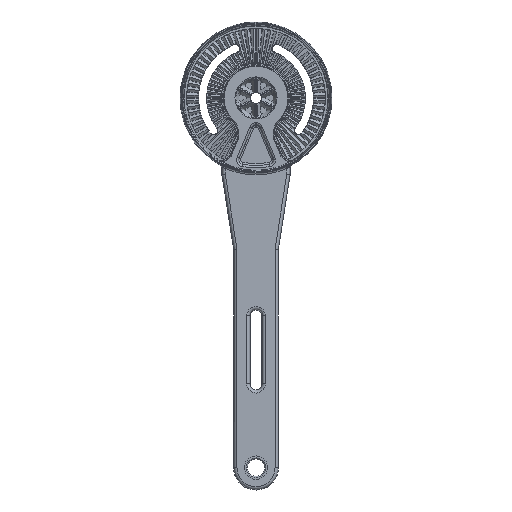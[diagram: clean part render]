
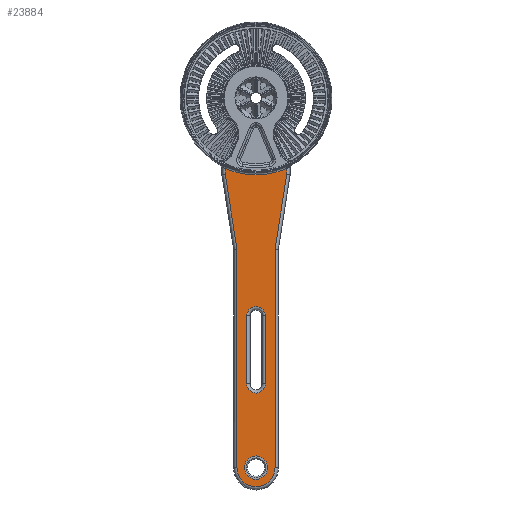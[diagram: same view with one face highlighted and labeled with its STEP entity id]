
A CAD part, top view. The second image highlights one B-rep face of the part: STEP entity #23884.
In plain terms, the highlighted planar face has unit normal (0, 0, 1).
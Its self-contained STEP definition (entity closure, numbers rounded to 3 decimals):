
#656 = VERTEX_POINT ( 'NONE', #7514 ) ;
#1043 = CARTESIAN_POINT ( 'NONE',  ( 9.423, -294., 16. ) ) ;
#1213 = VERTEX_POINT ( 'NONE', #8136 ) ;
#1321 = DIRECTION ( 'NONE',  ( 0., -1., 0. ) ) ;
#1452 = DIRECTION ( 'NONE',  ( -1., 0., 0. ) ) ;
#1480 = DIRECTION ( 'NONE',  ( 0., 0., -1. ) ) ;
#1540 = CARTESIAN_POINT ( 'NONE',  ( 0., 0., 16. ) ) ;
#1574 = CARTESIAN_POINT ( 'NONE',  ( -31.577, 500000., 16. ) ) ;
#1618 = VERTEX_POINT ( 'NONE', #10531 ) ;
#1676 = DIRECTION ( 'NONE',  ( -1., 0., 0. ) ) ;
#1681 = DIRECTION ( 'NONE',  ( 0., 0., -1. ) ) ;
#1763 = CARTESIAN_POINT ( 'NONE',  ( 0., -294., 16. ) ) ;
#1771 = CARTESIAN_POINT ( 'NONE',  ( 31.577, 500000., 16. ) ) ;
#2138 = DIRECTION ( 'NONE',  ( 0., 1., 0. ) ) ;
#2353 = CARTESIAN_POINT ( 'NONE',  ( 9.423, -224., 16. ) ) ;
#2357 = CARTESIAN_POINT ( 'NONE',  ( -9.423, -294., 16. ) ) ;
#3067 = VECTOR ( 'NONE', #19893, 1000. ) ;
#3095 = LINE ( 'NONE', #22497, #3067 ) ;
#3333 = VECTOR ( 'NONE', #25140, 1000. ) ;
#3478 = LINE ( 'NONE', #26350, #3721 ) ;
#3645 = LINE ( 'NONE', #26181, #3333 ) ;
#3721 = VECTOR ( 'NONE', #27639, 1000. ) ;
#3767 = VECTOR ( 'NONE', #12662, 1000. ) ;
#3794 = LINE ( 'NONE', #16490, #3767 ) ;
#3970 = CIRCLE ( 'NONE', #7070, 19.577 ) ;
#4026 = VECTOR ( 'NONE', #1321, 1000. ) ;
#4046 = LINE ( 'NONE', #1574, #4026 ) ;
#4301 = VECTOR ( 'NONE', #2138, 1000. ) ;
#4357 = LINE ( 'NONE', #1771, #4301 ) ;
#4442 = CIRCLE ( 'NONE', #12941, 9.423 ) ;
#4475 = CARTESIAN_POINT ( 'NONE',  ( -31.577, -78.735, 16. ) ) ;
#4652 = VECTOR ( 'NONE', #4739, 1000. ) ;
#4673 = CIRCLE ( 'NONE', #8152, 79.168 ) ;
#4739 = DIRECTION ( 'NONE',  ( 0., -1., 0. ) ) ;
#4832 = VERTEX_POINT ( 'NONE', #19675 ) ;
#4947 = CIRCLE ( 'NONE', #8760, 9.423 ) ;
#5000 = DIRECTION ( 'NONE',  ( 0., 0., -1. ) ) ;
#5008 = DIRECTION ( 'NONE',  ( -1., 0., 0. ) ) ;
#5015 = DIRECTION ( 'NONE',  ( 0., 0., -1. ) ) ;
#5031 = CARTESIAN_POINT ( 'NONE',  ( 0., -224., 16. ) ) ;
#5139 = LINE ( 'NONE', #5346, #5498 ) ;
#5204 = EDGE_CURVE ( 'NONE', #9185, #22754, #13198, .T. ) ;
#5327 = DIRECTION ( 'NONE',  ( 0., 1., 0. ) ) ;
#5346 = CARTESIAN_POINT ( 'NONE',  ( -9.423, -224., 16. ) ) ;
#5349 = LINE ( 'NONE', #22311, #4652 ) ;
#5498 = VECTOR ( 'NONE', #5327, 1000. ) ;
#5616 = DIRECTION ( 'NONE',  ( 1., 0., 0. ) ) ;
#5664 = DIRECTION ( 'NONE',  ( 0., 0., 1. ) ) ;
#5701 = CARTESIAN_POINT ( 'NONE',  ( 0., -380., 16. ) ) ;
#5799 = CIRCLE ( 'NONE', #9485, 12. ) ;
#5895 = DIRECTION ( 'NONE',  ( 1., 0., 0. ) ) ;
#5905 = DIRECTION ( 'NONE',  ( 0., 0., 1. ) ) ;
#5924 = CARTESIAN_POINT ( 'NONE',  ( 0., -380., 16. ) ) ;
#6581 = VERTEX_POINT ( 'NONE', #4475 ) ;
#7070 = AXIS2_PLACEMENT_3D ( 'NONE', #25908, #25882, #25815 ) ;
#7465 = AXIS2_PLACEMENT_3D ( 'NONE', #5701, #5664, #5616 ) ;
#7514 = CARTESIAN_POINT ( 'NONE',  ( 19.577, -380., 16. ) ) ;
#8136 = CARTESIAN_POINT ( 'NONE',  ( -9.423, -224., 16. ) ) ;
#8152 = AXIS2_PLACEMENT_3D ( 'NONE', #1540, #1480, #1452 ) ;
#8760 = AXIS2_PLACEMENT_3D ( 'NONE', #5031, #5015, #5008 ) ;
#9185 = VERTEX_POINT ( 'NONE', #13244 ) ;
#9485 = AXIS2_PLACEMENT_3D ( 'NONE', #5924, #5905, #5895 ) ;
#9913 = VERTEX_POINT ( 'NONE', #2357 ) ;
#10531 = CARTESIAN_POINT ( 'NONE',  ( 19.577, -155.735, 16. ) ) ;
#10876 = ORIENTED_EDGE ( 'NONE', *, *, #11051, .F. ) ;
#11051 = EDGE_CURVE ( 'NONE', #22754, #9185, #5799, .T. ) ;
#11130 = EDGE_CURVE ( 'NONE', #9913, #1213, #5139, .T. ) ;
#11168 = EDGE_CURVE ( 'NONE', #1213, #15814, #4947, .T. ) ;
#11212 = EDGE_CURVE ( 'NONE', #15814, #21350, #5349, .T. ) ;
#11256 = EDGE_CURVE ( 'NONE', #21350, #9913, #4442, .T. ) ;
#11261 = EDGE_CURVE ( 'NONE', #4832, #14639, #4357, .T. ) ;
#11264 = EDGE_CURVE ( 'NONE', #14639, #20977, #4673, .T. ) ;
#11302 = EDGE_CURVE ( 'NONE', #20977, #6581, #4046, .T. ) ;
#11396 = EDGE_CURVE ( 'NONE', #6581, #19930, #3794, .T. ) ;
#11468 = EDGE_CURVE ( 'NONE', #19930, #17425, #3478, .T. ) ;
#11471 = EDGE_CURVE ( 'NONE', #17425, #656, #3970, .T. ) ;
#11513 = EDGE_CURVE ( 'NONE', #656, #1618, #3645, .T. ) ;
#11602 = EDGE_CURVE ( 'NONE', #1618, #4832, #3095, .T. ) ;
#11916 = ORIENTED_EDGE ( 'NONE', *, *, #5204, .F. ) ;
#12269 = ORIENTED_EDGE ( 'NONE', *, *, #11130, .T. ) ;
#12662 = DIRECTION ( 'NONE',  ( 0.154, -0.988, 0. ) ) ;
#12941 = AXIS2_PLACEMENT_3D ( 'NONE', #1763, #1681, #1676 ) ;
#13108 = ORIENTED_EDGE ( 'NONE', *, *, #11168, .T. ) ;
#13182 = ORIENTED_EDGE ( 'NONE', *, *, #11212, .T. ) ;
#13198 = CIRCLE ( 'NONE', #7465, 12. ) ;
#13244 = CARTESIAN_POINT ( 'NONE',  ( -12., -380., 16. ) ) ;
#13858 = ORIENTED_EDGE ( 'NONE', *, *, #11256, .T. ) ;
#14167 = ORIENTED_EDGE ( 'NONE', *, *, #11261, .T. ) ;
#14187 = ORIENTED_EDGE ( 'NONE', *, *, #11264, .T. ) ;
#14482 = CARTESIAN_POINT ( 'NONE',  ( 12., -380., 16. ) ) ;
#14498 = ORIENTED_EDGE ( 'NONE', *, *, #11302, .T. ) ;
#14503 = ORIENTED_EDGE ( 'NONE', *, *, #11396, .T. ) ;
#14639 = VERTEX_POINT ( 'NONE', #17967 ) ;
#15359 = ORIENTED_EDGE ( 'NONE', *, *, #11468, .T. ) ;
#15768 = ORIENTED_EDGE ( 'NONE', *, *, #11471, .T. ) ;
#15814 = VERTEX_POINT ( 'NONE', #2353 ) ;
#16085 = ORIENTED_EDGE ( 'NONE', *, *, #11513, .T. ) ;
#16490 = CARTESIAN_POINT ( 'NONE',  ( -76118.065, 488142.899, 16. ) ) ;
#16780 = ORIENTED_EDGE ( 'NONE', *, *, #11602, .T. ) ;
#16812 = CARTESIAN_POINT ( 'NONE',  ( -19.577, -380., 16. ) ) ;
#17425 = VERTEX_POINT ( 'NONE', #16812 ) ;
#17547 = CARTESIAN_POINT ( 'NONE',  ( -19.577, -155.735, 16. ) ) ;
#17916 = CARTESIAN_POINT ( 'NONE',  ( -35., 500000., 16. ) ) ;
#17967 = CARTESIAN_POINT ( 'NONE',  ( 31.577, -72.599, 16. ) ) ;
#19515 = FACE_BOUND ( 'NONE', #25712, .T. ) ;
#19609 = FACE_OUTER_BOUND ( 'NONE', #26388, .T. ) ;
#19675 = CARTESIAN_POINT ( 'NONE',  ( 31.577, -78.735, 16. ) ) ;
#19893 = DIRECTION ( 'NONE',  ( 0.154, 0.988, 0. ) ) ;
#19930 = VERTEX_POINT ( 'NONE', #17547 ) ;
#20094 = DIRECTION ( 'NONE',  ( -1., 0., 0. ) ) ;
#20977 = VERTEX_POINT ( 'NONE', #25108 ) ;
#21350 = VERTEX_POINT ( 'NONE', #1043 ) ;
#22311 = CARTESIAN_POINT ( 'NONE',  ( 9.423, -294., 16. ) ) ;
#22497 = CARTESIAN_POINT ( 'NONE',  ( 76116.405, 488132.249, 16. ) ) ;
#22732 = EDGE_LOOP ( 'NONE', ( #10876, #11916 ) ) ;
#22754 = VERTEX_POINT ( 'NONE', #14482 ) ;
#23884 = ADVANCED_FACE ( 'NONE', ( #24519, #19515, #19609 ), #26506, .F. ) ;
#23891 = AXIS2_PLACEMENT_3D ( 'NONE', #17916, #5000, #20094 ) ;
#24519 = FACE_BOUND ( 'NONE', #22732, .T. ) ;
#25108 = CARTESIAN_POINT ( 'NONE',  ( -31.577, -72.599, 16. ) ) ;
#25140 = DIRECTION ( 'NONE',  ( 0., 1., 0. ) ) ;
#25712 = EDGE_LOOP ( 'NONE', ( #12269, #13108, #13182, #13858 ) ) ;
#25815 = DIRECTION ( 'NONE',  ( -1., 0., 0. ) ) ;
#25882 = DIRECTION ( 'NONE',  ( 0., 0., 1. ) ) ;
#25908 = CARTESIAN_POINT ( 'NONE',  ( 0., -380., 16. ) ) ;
#26181 = CARTESIAN_POINT ( 'NONE',  ( 19.577, 500000., 16. ) ) ;
#26350 = CARTESIAN_POINT ( 'NONE',  ( -19.577, 500000., 16. ) ) ;
#26388 = EDGE_LOOP ( 'NONE', ( #14167, #14187, #14498, #14503, #15359, #15768, #16085, #16780 ) ) ;
#26506 = PLANE ( 'NONE',  #23891 ) ;
#27639 = DIRECTION ( 'NONE',  ( 0., -1., 0. ) ) ;
